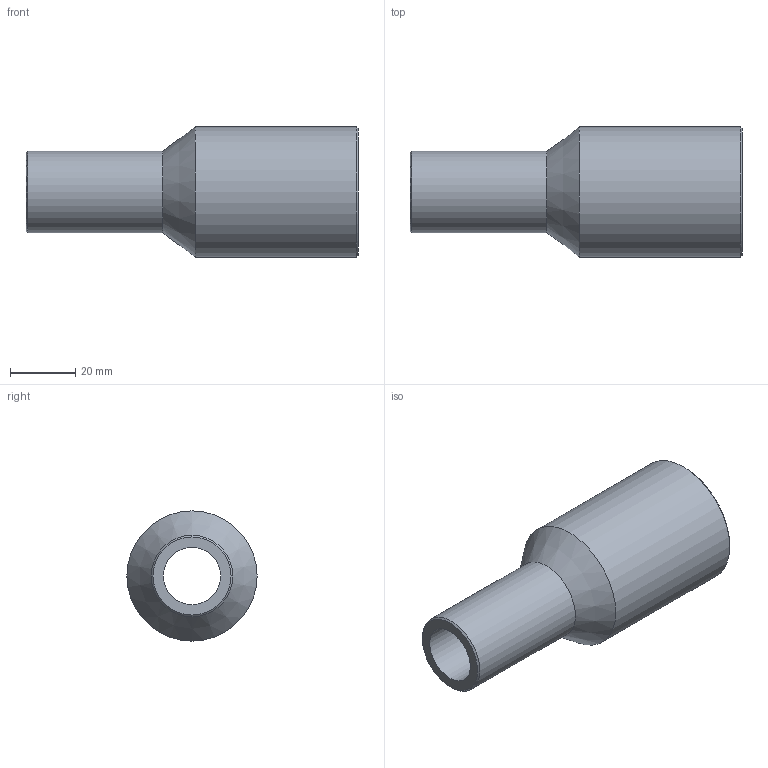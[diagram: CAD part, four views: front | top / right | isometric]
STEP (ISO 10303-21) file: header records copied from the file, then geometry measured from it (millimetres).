
FILE_DESCRIPTION(/* description */ ('Unknown'),/* implementation_level */ '2;1');
FILE_NAME(/* name */ 'RP040025H',/* time_stamp */ '2021-09-16T10:37:42+02:00',/* author */ ('Unknown'),/* organization */ ('Unknown'),/* preprocessor_version */ 'ST-DEVELOPER v16.7',/* originating_system */ 'Solid Edge',/* authorisation */ 'Unknown');
FILE_SCHEMA (('AUTOMOTIVE_DESIGN {1 0 10303 214 3 1 1}'));
Length unit declared in the file: millimetre
Products named in the file (1): RP040025H
Bounding box: 102 x 40 x 40 mm (x, y, z)
Volume: 45333.6 mm3; surface area: 19263.1 mm2
Topology: 1 solids, 1 shells, 10 faces, 19 edges, 11 vertices
Faces by surface type: cylinder 4, cone 4, plane 2
Full cylindrical faces by diameter (mm): 17.6 x1, 25 x1, 29 x1, 40 x1
Entity records: 238 total; most frequent: DIRECTION 42, CARTESIAN_POINT 31, AXIS2_PLACEMENT_3D 21, ORIENTED_EDGE 20, EDGE_LOOP 20, FACE_BOUND 20, EDGE_CURVE 10, VERTEX_POINT 10
